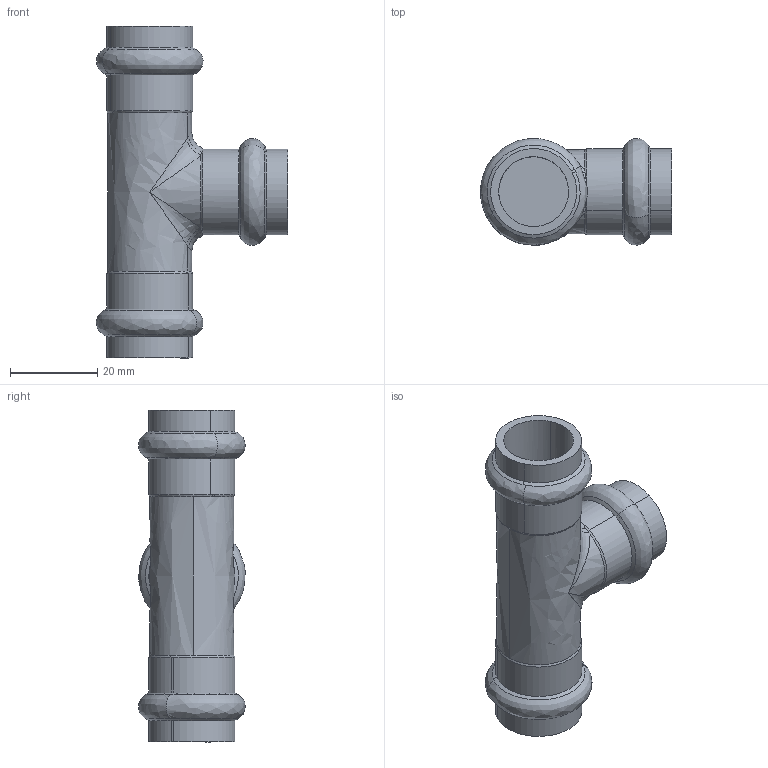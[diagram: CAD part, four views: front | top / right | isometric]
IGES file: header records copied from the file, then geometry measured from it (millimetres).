
Start section: 3D InterOp IGES (Version 25 0 1), Spatial Corp. Copyright (c) 1999-2007.
Global section: file name: pim0002056.igs; native system: Spatial Corp.; preprocessor: 3D InterOp ACIS/IGES; author: CAD-PIM; organization: TransMagic, Inc.; date: 20150318.112819; units: millimetre
Bounding box: 43.83 x 24.36 x 76 mm (x, y, z)
Volume: 20590.5 mm3; surface area: 10248.1 mm2
Topology: 1 solids, 1 shells, 84 faces, 240 edges, 157 vertices
Faces by surface type: bspline 84
